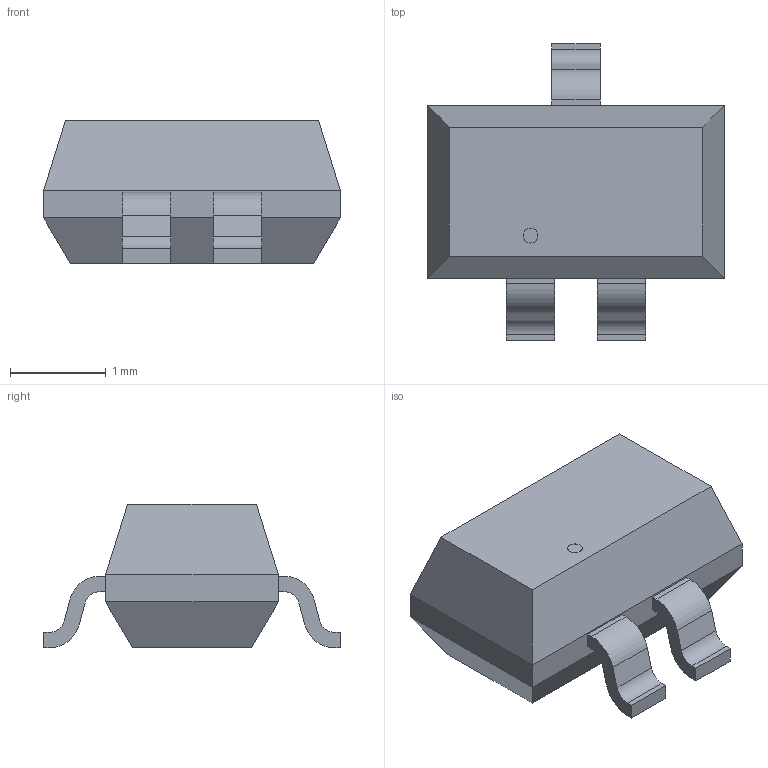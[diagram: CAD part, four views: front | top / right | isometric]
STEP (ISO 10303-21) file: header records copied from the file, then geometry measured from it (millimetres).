
FILE_DESCRIPTION(('STEP AP214'),'1');
FILE_NAME('DIO_ME6206A30M3G_MNM','2025-10-17T11:57:27',(''),(''),'','','');
FILE_SCHEMA(('AUTOMOTIVE_DESIGN'));
Length unit declared in the file: millimetre
Products named in the file (1): product
Bounding box: 3.1 x 3.1 x 1.5 mm (x, y, z)
Volume: 7.2 mm3; surface area: 25.7 mm2
Topology: 5 solids, 5 shells, 59 faces, 139 edges, 90 vertices
Faces by surface type: plane 46, cylinder 13
Full cylindrical faces by diameter (mm): 0.155 x1
Entity records: 1769 total; most frequent: DIRECTION 286, ORIENTED_EDGE 276, CARTESIAN_POINT 165, EDGE_CURVE 138, LINE 112, VECTOR 112, VERTEX_POINT 90, AXIS2_PLACEMENT_3D 87
